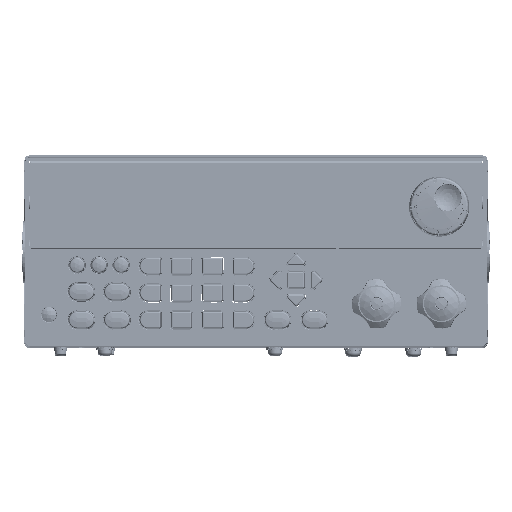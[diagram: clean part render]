
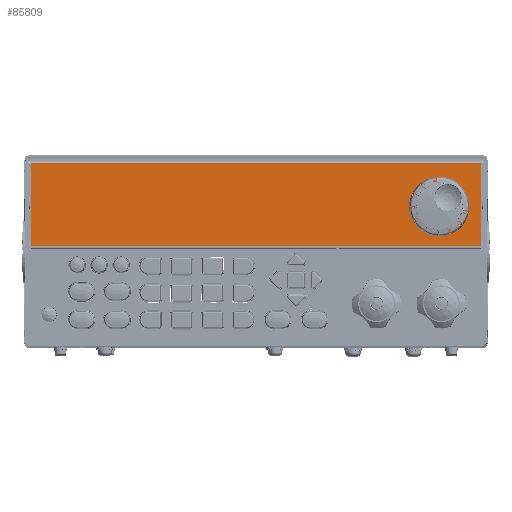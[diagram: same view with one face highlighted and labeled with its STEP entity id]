
A CAD part, top view. The second image highlights one B-rep face of the part: STEP entity #85809.
In plain terms, the highlighted planar face has unit normal (0, 0, 1).
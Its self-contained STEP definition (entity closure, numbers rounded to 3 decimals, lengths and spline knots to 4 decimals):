
#85714=DIRECTION('',(0.,-1.,0.));
#85715=VECTOR('',#85714,1.563);
#85716=CARTESIAN_POINT('',(5.1256,2.5263,6.7469));
#85717=LINE('',#85716,#85715);
#85721=DIRECTION('',(-1.,0.,0.));
#85722=VECTOR('',#85721,8.2323);
#85723=CARTESIAN_POINT('',(5.1256,0.9634,
6.7469));
#85724=LINE('',#85723,#85722);
#85728=DIRECTION('',(0.,1.,0.));
#85729=VECTOR('',#85728,1.563);
#85730=CARTESIAN_POINT('',(-3.1067,0.9634,
6.7469));
#85731=LINE('',#85730,#85729);
#85735=DIRECTION('',(1.,0.,0.));
#85736=VECTOR('',#85735,8.2323);
#85737=CARTESIAN_POINT('',(-3.1067,2.5263,
6.7469));
#85738=LINE('',#85737,#85736);
#85742=CARTESIAN_POINT('',(4.5921,1.7212,6.7469));
#85743=CARTESIAN_POINT('',(4.592,1.7445,6.7469));
#85744=CARTESIAN_POINT('',(4.5856,1.7889,6.7469));
#85745=CARTESIAN_POINT('',(4.5567,1.8519,6.7469));
#85746=CARTESIAN_POINT('',(4.5117,1.9031,6.7469));
#85747=CARTESIAN_POINT('',(4.4543,1.9395,6.7469));
#85748=CARTESIAN_POINT('',(4.3889,1.9584,6.7469));
#85749=CARTESIAN_POINT('',(4.3211,1.9581,6.7469));
#85750=CARTESIAN_POINT('',(4.2556,1.9386,6.7469));
#85751=CARTESIAN_POINT('',(4.1989,1.9019,6.7469));
#85752=CARTESIAN_POINT('',(4.1547,1.851,6.7469));
#85753=CARTESIAN_POINT('',(4.1261,1.7887,6.7469));
#85754=CARTESIAN_POINT('',(4.1198,1.7444,6.7469));
#85755=CARTESIAN_POINT('',(4.1197,1.7212,6.7469));
#85760=CARTESIAN_POINT('',(4.1197,1.7212,6.7469));
#85761=CARTESIAN_POINT('',(4.1198,1.698,6.7469));
#85762=CARTESIAN_POINT('',(4.1262,1.6536,6.7469));
#85763=CARTESIAN_POINT('',(4.1551,1.5906,6.7469));
#85764=CARTESIAN_POINT('',(4.2001,1.5394,6.7469));
#85765=CARTESIAN_POINT('',(4.2575,1.5029,6.7469));
#85766=CARTESIAN_POINT('',(4.3229,1.4841,6.7469));
#85767=CARTESIAN_POINT('',(4.3908,1.4843,6.7469));
#85768=CARTESIAN_POINT('',(4.4562,1.5038,6.7469));
#85769=CARTESIAN_POINT('',(4.5129,1.5406,6.7469));
#85770=CARTESIAN_POINT('',(4.5571,1.5915,6.7469));
#85771=CARTESIAN_POINT('',(4.5857,1.6538,6.7469));
#85772=CARTESIAN_POINT('',(4.592,1.698,6.7469));
#85773=CARTESIAN_POINT('',(4.5921,1.7212,6.7469));
#85778=CARTESIAN_POINT('',(5.1256,0.9634,
6.7469));
#85779=CARTESIAN_POINT('',(-3.1067,0.9634,
6.7469));
#85780=VERTEX_POINT('',#85778);
#85781=VERTEX_POINT('',#85779);
#85782=VERTEX_POINT('',#85755);
#85783=VERTEX_POINT('',#85742);
#85784=CARTESIAN_POINT('',(5.1256,2.5263,6.7469));
#85785=VERTEX_POINT('',#85784);
#85786=CARTESIAN_POINT('',(-3.1067,2.5263,
6.7469));
#85787=VERTEX_POINT('',#85786);
#85788=CARTESIAN_POINT('',(-3.1264,2.546,
6.7469));
#85789=DIRECTION('',(0.,0.,1.));
#85790=DIRECTION('',(1.,0.,0.));
#85791=AXIS2_PLACEMENT_3D('',#85788,#85789,#85790);
#85792=PLANE('',#85791);
#85794=ORIENTED_EDGE('',*,*,#85793,.T.);
#85796=ORIENTED_EDGE('',*,*,#85795,.T.);
#85798=ORIENTED_EDGE('',*,*,#85797,.T.);
#85800=ORIENTED_EDGE('',*,*,#85799,.T.);
#85801=EDGE_LOOP('',(#85794,#85796,#85798,#85800));
#85802=FACE_OUTER_BOUND('',#85801,.F.);
#85804=ORIENTED_EDGE('',*,*,#85803,.T.);
#85806=ORIENTED_EDGE('',*,*,#85805,.T.);
#85807=EDGE_LOOP('',(#85804,#85806));
#85808=FACE_BOUND('',#85807,.F.);
#85809=ADVANCED_FACE('',(#85802,#85808),#85792,.T.);
#85756=B_SPLINE_CURVE_WITH_KNOTS('',3,(#85742,#85743,#85744,#85745,#85746,
#85747,#85748,#85749,#85750,#85751,#85752,#85753,#85754,#85755),.UNSPECIFIED.,
.F.,.F.,(4,1,1,1,1,1,1,1,1,1,1,4),(0.,0.0909,0.1818,
0.2727,0.3636,0.4545,0.5455,
0.6364,0.7273,0.8182,0.9091,1.),
.UNSPECIFIED.);
#85774=B_SPLINE_CURVE_WITH_KNOTS('',3,(#85760,#85761,#85762,#85763,#85764,
#85765,#85766,#85767,#85768,#85769,#85770,#85771,#85772,#85773),.UNSPECIFIED.,
.F.,.F.,(4,1,1,1,1,1,1,1,1,1,1,4),(0.,0.0909,0.1818,
0.2727,0.3636,0.4545,0.5455,
0.6364,0.7273,0.8182,0.9091,1.),
.UNSPECIFIED.);
#85793=EDGE_CURVE('',#85785,#85780,#85717,.T.);
#85795=EDGE_CURVE('',#85780,#85781,#85724,.T.);
#85797=EDGE_CURVE('',#85781,#85787,#85731,.T.);
#85799=EDGE_CURVE('',#85787,#85785,#85738,.T.);
#85803=EDGE_CURVE('',#85783,#85782,#85756,.T.);
#85805=EDGE_CURVE('',#85782,#85783,#85774,.T.);
